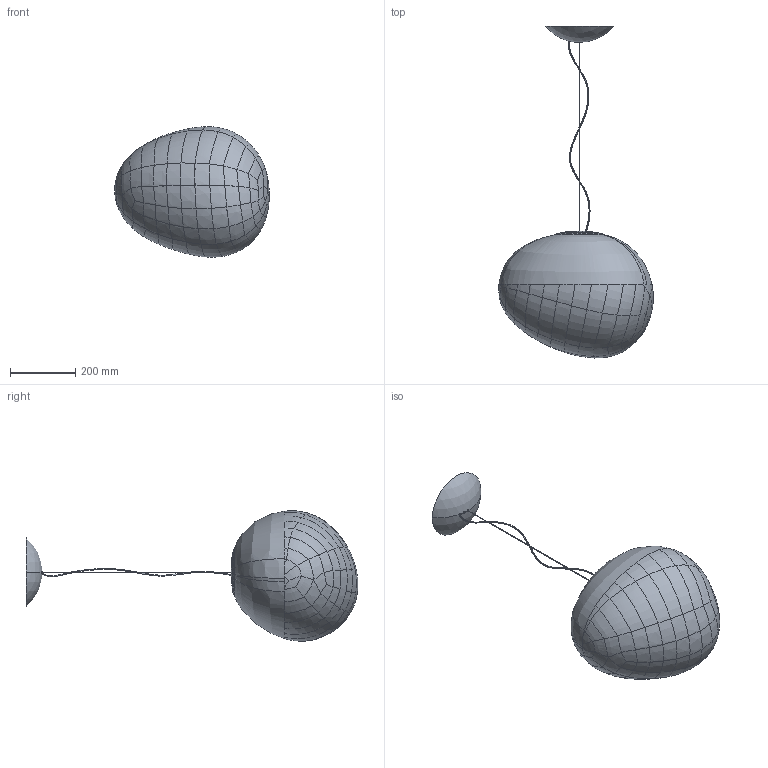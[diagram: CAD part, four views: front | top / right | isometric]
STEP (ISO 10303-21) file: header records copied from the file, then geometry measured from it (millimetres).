
FILE_DESCRIPTION (( 'STEP AP203' ), '1' );
FILE_NAME ('168_GRANDE_S_LD_3D.STEP', '2021-04-12T09:26:06', ( '' ), ( '' ), 'SwSTEP 2.0', 'SolidWorks 2021', '' );
FILE_SCHEMA (( 'CONFIG_CONTROL_DESIGN' ));
Products named in the file (1): 168_GRANDE_S_LD_3D
Bounding box: 474.62 x 1019.2 x 400.52 mm (x, y, z)
Volume: 3144392 mm3; surface area: 1235044.2 mm2
Topology: 4 solids, 4 shells, 2076 faces, 5060 edges, 2887 vertices
Faces by surface type: bspline 1077, cylinder 278, plane 269, torus 223, cone 131, sphere 98
Entity records: 465350 total; most frequent: CARTESIAN_POINT 425979, ORIENTED_EDGE 9826, DIRECTION 5968, EDGE_CURVE 4913, VERTEX_POINT 2871, AXIS2_PLACEMENT_3D 2637, B_SPLINE_CURVE_WITH_KNOTS 2416, EDGE_LOOP 2120
